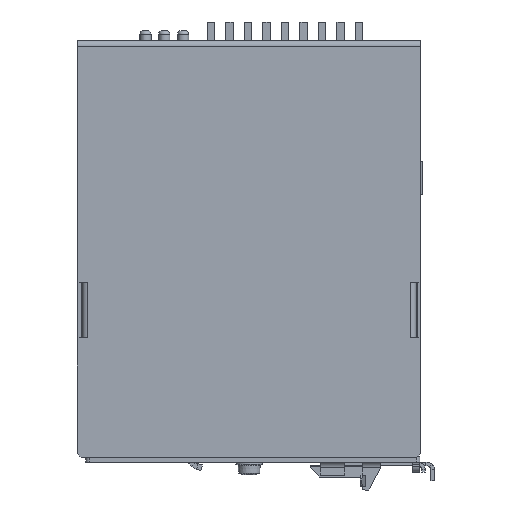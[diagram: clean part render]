
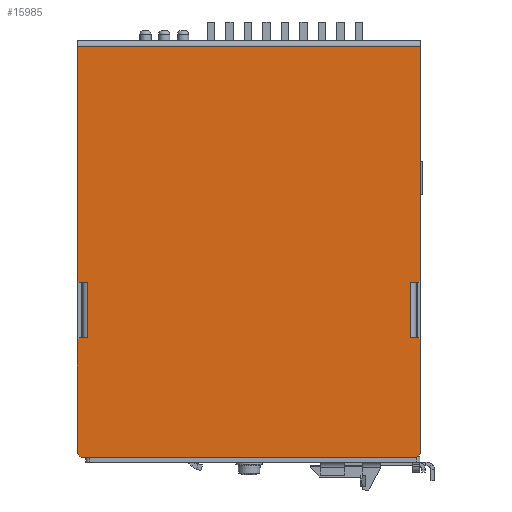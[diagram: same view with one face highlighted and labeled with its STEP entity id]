
A CAD part, front view. The second image highlights one B-rep face of the part: STEP entity #15985.
In plain terms, the highlighted planar face has unit normal (0, -1, 0).
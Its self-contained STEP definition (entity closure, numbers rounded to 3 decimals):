
#1245=LINE('',#24502,#3120);
#1249=LINE('',#24510,#3124);
#1251=LINE('',#24516,#3126);
#1252=LINE('',#24518,#3127);
#1253=LINE('',#24520,#3128);
#1254=LINE('',#24522,#3129);
#1255=LINE('',#24524,#3130);
#1256=LINE('',#24526,#3131);
#1257=LINE('',#24528,#3132);
#1258=LINE('',#24530,#3133);
#1259=LINE('',#24532,#3134);
#1260=LINE('',#24534,#3135);
#1261=LINE('',#24536,#3136);
#1262=LINE('',#24538,#3137);
#1263=LINE('',#24540,#3138);
#1264=LINE('',#24542,#3139);
#1265=LINE('',#24544,#3140);
#1266=LINE('',#24545,#3141);
#3120=VECTOR('',#19788,0.707);
#3124=VECTOR('',#19794,2.2);
#3126=VECTOR('',#19800,63.2);
#3127=VECTOR('',#19801,92.5);
#3128=VECTOR('',#19802,63.2);
#3129=VECTOR('',#19803,0.707);
#3130=VECTOR('',#19804,2.2);
#3131=VECTOR('',#19805,15.);
#3132=VECTOR('',#19806,2.2);
#3133=VECTOR('',#19807,0.707);
#3134=VECTOR('',#19808,30.7);
#3135=VECTOR('',#19809,1.414);
#3136=VECTOR('',#19810,90.5);
#3137=VECTOR('',#19811,1.414);
#3138=VECTOR('',#19812,30.7);
#3139=VECTOR('',#19813,0.707);
#3140=VECTOR('',#19814,2.2);
#3141=VECTOR('',#19815,15.);
#4293=PLANE('',#16967);
#5264=FACE_OUTER_BOUND('',#6318,.T.);
#6318=EDGE_LOOP('',(#13174,#13175,#13176,#13177,#13178,#13179,#13180,#13181,
#13182,#13183,#13184,#13185,#13186,#13187,#13188,#13189,#13190,#13191));
#7962=VERTEX_POINT('',#24500);
#7963=VERTEX_POINT('',#24501);
#7966=VERTEX_POINT('',#24509);
#7968=VERTEX_POINT('',#24515);
#7969=VERTEX_POINT('',#24517);
#7970=VERTEX_POINT('',#24519);
#7971=VERTEX_POINT('',#24521);
#7972=VERTEX_POINT('',#24523);
#7973=VERTEX_POINT('',#24525);
#7974=VERTEX_POINT('',#24527);
#7975=VERTEX_POINT('',#24529);
#7976=VERTEX_POINT('',#24531);
#7977=VERTEX_POINT('',#24533);
#7978=VERTEX_POINT('',#24535);
#7979=VERTEX_POINT('',#24537);
#7980=VERTEX_POINT('',#24539);
#7981=VERTEX_POINT('',#24541);
#7982=VERTEX_POINT('',#24543);
#9783=EDGE_CURVE('',#7962,#7963,#1245,.T.);
#9787=EDGE_CURVE('',#7966,#7963,#1249,.T.);
#9790=EDGE_CURVE('',#7962,#7968,#1251,.T.);
#9791=EDGE_CURVE('',#7968,#7969,#1252,.T.);
#9792=EDGE_CURVE('',#7969,#7970,#1253,.T.);
#9793=EDGE_CURVE('',#7971,#7970,#1254,.T.);
#9794=EDGE_CURVE('',#7971,#7972,#1255,.T.);
#9795=EDGE_CURVE('',#7972,#7973,#1256,.T.);
#9796=EDGE_CURVE('',#7973,#7974,#1257,.T.);
#9797=EDGE_CURVE('',#7975,#7974,#1258,.T.);
#9798=EDGE_CURVE('',#7975,#7976,#1259,.T.);
#9799=EDGE_CURVE('',#7977,#7976,#1260,.T.);
#9800=EDGE_CURVE('',#7977,#7978,#1261,.T.);
#9801=EDGE_CURVE('',#7979,#7978,#1262,.T.);
#9802=EDGE_CURVE('',#7979,#7980,#1263,.T.);
#9803=EDGE_CURVE('',#7981,#7980,#1264,.T.);
#9804=EDGE_CURVE('',#7981,#7982,#1265,.T.);
#9805=EDGE_CURVE('',#7982,#7966,#1266,.T.);
#13174=ORIENTED_EDGE('',*,*,#9783,.F.);
#13175=ORIENTED_EDGE('',*,*,#9790,.T.);
#13176=ORIENTED_EDGE('',*,*,#9791,.T.);
#13177=ORIENTED_EDGE('',*,*,#9792,.T.);
#13178=ORIENTED_EDGE('',*,*,#9793,.F.);
#13179=ORIENTED_EDGE('',*,*,#9794,.T.);
#13180=ORIENTED_EDGE('',*,*,#9795,.T.);
#13181=ORIENTED_EDGE('',*,*,#9796,.T.);
#13182=ORIENTED_EDGE('',*,*,#9797,.F.);
#13183=ORIENTED_EDGE('',*,*,#9798,.T.);
#13184=ORIENTED_EDGE('',*,*,#9799,.F.);
#13185=ORIENTED_EDGE('',*,*,#9800,.T.);
#13186=ORIENTED_EDGE('',*,*,#9801,.F.);
#13187=ORIENTED_EDGE('',*,*,#9802,.T.);
#13188=ORIENTED_EDGE('',*,*,#9803,.F.);
#13189=ORIENTED_EDGE('',*,*,#9804,.T.);
#13190=ORIENTED_EDGE('',*,*,#9805,.T.);
#13191=ORIENTED_EDGE('',*,*,#9787,.T.);
#15985=ADVANCED_FACE('',(#5264),#4293,.F.);
#16967=AXIS2_PLACEMENT_3D('',#24514,#19798,#19799);
#19788=DIRECTION('',(-0.707,0.,-0.707));
#19794=DIRECTION('',(1.,0.,0.));
#19798=DIRECTION('center_axis',(0.,1.,0.));
#19799=DIRECTION('ref_axis',(0.,0.,-1.));
#19800=DIRECTION('',(0.,0.,1.));
#19801=DIRECTION('',(-1.,0.,0.));
#19802=DIRECTION('',(0.,0.,-1.));
#19803=DIRECTION('',(-0.707,0.,0.707));
#19804=DIRECTION('',(1.,0.,0.));
#19805=DIRECTION('',(0.,0.,-1.));
#19806=DIRECTION('',(-1.,0.,0.));
#19807=DIRECTION('',(0.707,0.,0.707));
#19808=DIRECTION('',(0.,0.,-1.));
#19809=DIRECTION('',(-0.707,0.,0.707));
#19810=DIRECTION('',(1.,0.,0.));
#19811=DIRECTION('',(-0.707,0.,-0.707));
#19812=DIRECTION('',(0.,0.,1.));
#19813=DIRECTION('',(0.707,0.,-0.707));
#19814=DIRECTION('',(-1.,0.,0.));
#19815=DIRECTION('',(0.,0.,1.));
#24500=CARTESIAN_POINT('',(92.4,-1.,47.5));
#24501=CARTESIAN_POINT('',(91.9,-1.,47.));
#24502=CARTESIAN_POINT('',(82.79,-1.,37.89));
#24509=CARTESIAN_POINT('',(89.7,-1.,47.));
#24510=CARTESIAN_POINT('',(68.3,-1.,47.));
#24514=CARTESIAN_POINT('Origin',(46.15,-1.,55.809));
#24515=CARTESIAN_POINT('',(92.4,-1.,110.7));
#24516=CARTESIAN_POINT('',(92.4,-1.,47.));
#24517=CARTESIAN_POINT('',(-0.1,-1.,110.7));
#24518=CARTESIAN_POINT('',(46.15,-1.,110.7));
#24519=CARTESIAN_POINT('',(-0.1,-1.,47.5));
#24520=CARTESIAN_POINT('',(-0.1,-1.,112.2));
#24521=CARTESIAN_POINT('',(0.4,-1.,47.));
#24522=CARTESIAN_POINT('',(9.51,-1.,37.89));
#24523=CARTESIAN_POINT('',(2.6,-1.,47.));
#24524=CARTESIAN_POINT('',(24.,-1.,47.));
#24525=CARTESIAN_POINT('',(2.6,-1.,32.));
#24526=CARTESIAN_POINT('',(2.6,-1.,47.654));
#24527=CARTESIAN_POINT('',(0.4,-1.,32.));
#24528=CARTESIAN_POINT('',(24.,-1.,32.));
#24529=CARTESIAN_POINT('',(-0.1,-1.,31.5));
#24530=CARTESIAN_POINT('',(17.665,-1.,49.265));
#24531=CARTESIAN_POINT('',(-0.1,-1.,0.8));
#24532=CARTESIAN_POINT('',(-0.1,-1.,32.));
#24533=CARTESIAN_POINT('',(0.9,-1.,-0.2));
#24534=CARTESIAN_POINT('',(-2.04,-1.,2.74));
#24535=CARTESIAN_POINT('',(91.4,-1.,-0.2));
#24536=CARTESIAN_POINT('',(-0.1,-1.,-0.2));
#24537=CARTESIAN_POINT('',(92.4,-1.,0.8));
#24538=CARTESIAN_POINT('',(94.34,-1.,2.74));
#24539=CARTESIAN_POINT('',(92.4,-1.,31.5));
#24540=CARTESIAN_POINT('',(92.4,-1.,-0.2));
#24541=CARTESIAN_POINT('',(91.9,-1.,32.));
#24542=CARTESIAN_POINT('',(74.635,-1.,49.265));
#24543=CARTESIAN_POINT('',(89.7,-1.,32.));
#24544=CARTESIAN_POINT('',(92.4,-1.,32.));
#24545=CARTESIAN_POINT('',(89.7,-1.,47.654));
